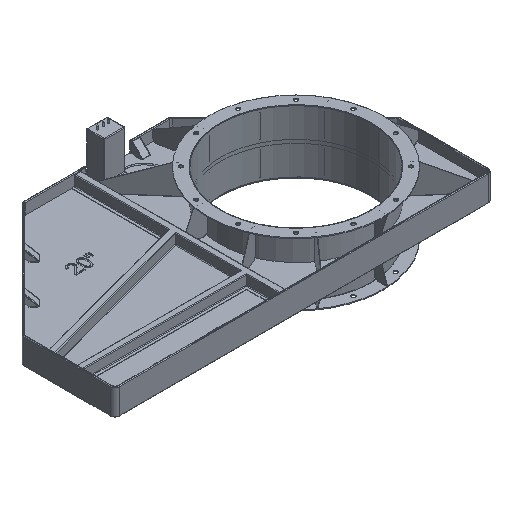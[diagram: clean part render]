
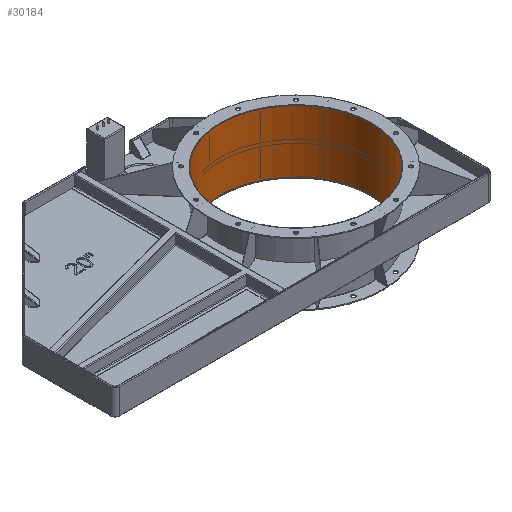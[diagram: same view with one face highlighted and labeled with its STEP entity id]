
A CAD part, isometric view. The second image highlights one B-rep face of the part: STEP entity #30184.
In plain terms, the highlighted free-form (B-spline) face has degree [2, 1] with [9, 2] control points.
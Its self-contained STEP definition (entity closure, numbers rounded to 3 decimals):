
#30117=CARTESIAN_POINT('',(0.,-252.5,105.75));
#30118=VERTEX_POINT('',#30117);
#30119=CARTESIAN_POINT('',(0.,-252.5,105.75));
#30120=CARTESIAN_POINT('',(-437.343,-252.5,105.75));
#30121=CARTESIAN_POINT('',(-218.671,126.25,105.75));
#30122=CARTESIAN_POINT('',(0.,505.,105.75));
#30123=CARTESIAN_POINT('',(218.671,126.25,105.75));
#30124=CARTESIAN_POINT('',(437.343,-252.5,105.75));
#30125=CARTESIAN_POINT('',(0.,-252.5,105.75));
#30126=(BOUNDED_CURVE()B_SPLINE_CURVE(2,(#30119,#30120,#30121,#30122,#30123,#30124,#30125),.CIRCULAR_ARC.,.T.,.U.)B_SPLINE_CURVE_WITH_KNOTS((3,2,2,3),(0.,0.333,0.667,1.),.UNSPECIFIED.)CURVE()GEOMETRIC_REPRESENTATION_ITEM()RATIONAL_B_SPLINE_CURVE((1.,0.5,1.,0.5,1.,0.5,1.))REPRESENTATION_ITEM(''));
#30127=EDGE_CURVE('',#30118,#30118,#30126,.T.);
#30140=CARTESIAN_POINT('',(0.,-252.5,-105.75));
#30141=VERTEX_POINT('',#30140);
#30142=CARTESIAN_POINT('',(0.,-252.5,-105.75));
#30143=CARTESIAN_POINT('',(-437.343,-252.5,-105.75));
#30144=CARTESIAN_POINT('',(-218.671,126.25,-105.75));
#30145=CARTESIAN_POINT('',(0.,505.,-105.75));
#30146=CARTESIAN_POINT('',(218.671,126.25,-105.75));
#30147=CARTESIAN_POINT('',(437.343,-252.5,-105.75));
#30148=CARTESIAN_POINT('',(0.,-252.5,-105.75));
#30149=(BOUNDED_CURVE()B_SPLINE_CURVE(2,(#30142,#30143,#30144,#30145,#30146,#30147,#30148),.CIRCULAR_ARC.,.T.,.U.)B_SPLINE_CURVE_WITH_KNOTS((3,2,2,3),(0.,0.333,0.667,1.),.UNSPECIFIED.)CURVE()GEOMETRIC_REPRESENTATION_ITEM()RATIONAL_B_SPLINE_CURVE((1.,0.5,1.,0.5,1.,0.5,1.))REPRESENTATION_ITEM(''));
#30150=EDGE_CURVE('',#30141,#30141,#30149,.T.);
#30155=CARTESIAN_POINT('',(0.,-252.5,-105.75));
#30156=CARTESIAN_POINT('',(0.,-252.5,105.75));
#30157=CARTESIAN_POINT('',(252.5,-252.5,-105.75));
#30158=CARTESIAN_POINT('',(252.5,-252.5,105.75));
#30159=CARTESIAN_POINT('',(252.5,0.,-105.75));
#30160=CARTESIAN_POINT('',(252.5,0.,105.75));
#30161=CARTESIAN_POINT('',(252.5,252.5,-105.75));
#30162=CARTESIAN_POINT('',(252.5,252.5,105.75));
#30163=CARTESIAN_POINT('',(0.,252.5,-105.75));
#30164=CARTESIAN_POINT('',(0.,252.5,105.75));
#30165=CARTESIAN_POINT('',(-252.5,252.5,-105.75));
#30166=CARTESIAN_POINT('',(-252.5,252.5,105.75));
#30167=CARTESIAN_POINT('',(-252.5,0.,-105.75));
#30168=CARTESIAN_POINT('',(-252.5,0.,105.75));
#30169=CARTESIAN_POINT('',(-252.5,-252.5,-105.75));
#30170=CARTESIAN_POINT('',(-252.5,-252.5,105.75));
#30171=CARTESIAN_POINT('',(0.,-252.5,-105.75));
#30172=CARTESIAN_POINT('',(0.,-252.5,105.75));
#30173=(BOUNDED_SURFACE()B_SPLINE_SURFACE(2,1,((#30155,#30156),(#30157,#30158),(#30159,#30160),(#30161,#30162),(#30163,#30164),(#30165,#30166),(#30167,#30168),(#30169,#30170),(#30171,#30172)),.CYLINDRICAL_SURF.,.T.,.F.,.U.)B_SPLINE_SURFACE_WITH_KNOTS((3,2,2,2,3),(2,2),(0.,0.25,0.5,0.75,1.),(0.,1.),.UNSPECIFIED.)GEOMETRIC_REPRESENTATION_ITEM()RATIONAL_B_SPLINE_SURFACE(((1.,1.),(0.707,0.707),(1.,1.),(0.707,0.707),(1.,1.),(0.707,0.707),(1.,1.),(0.707,0.707),(1.,1.)))REPRESENTATION_ITEM('')SURFACE());
#30174=ORIENTED_EDGE('',*,*,#30150,.F.);
#30175=CARTESIAN_POINT('',(0.,-252.5,-105.75));
#30176=CARTESIAN_POINT('',(0.,-252.5,105.75));
#30177=B_SPLINE_CURVE_WITH_KNOTS('',1,(#30175,#30176),.POLYLINE_FORM.,.F.,.U.,(2,2),(0.,1.),.UNSPECIFIED.);
#30178=EDGE_CURVE('',#30141,#30118,#30177,.T.);
#30179=ORIENTED_EDGE('',*,*,#30178,.T.);
#30180=ORIENTED_EDGE('',*,*,#30127,.T.);
#30181=ORIENTED_EDGE('',*,*,#30178,.F.);
#30182=EDGE_LOOP('',(#30174,#30179,#30180,#30181));
#30183=FACE_OUTER_BOUND('',#30182,.F.);
#30184=ADVANCED_FACE('',(#30183),#30173,.F.);
